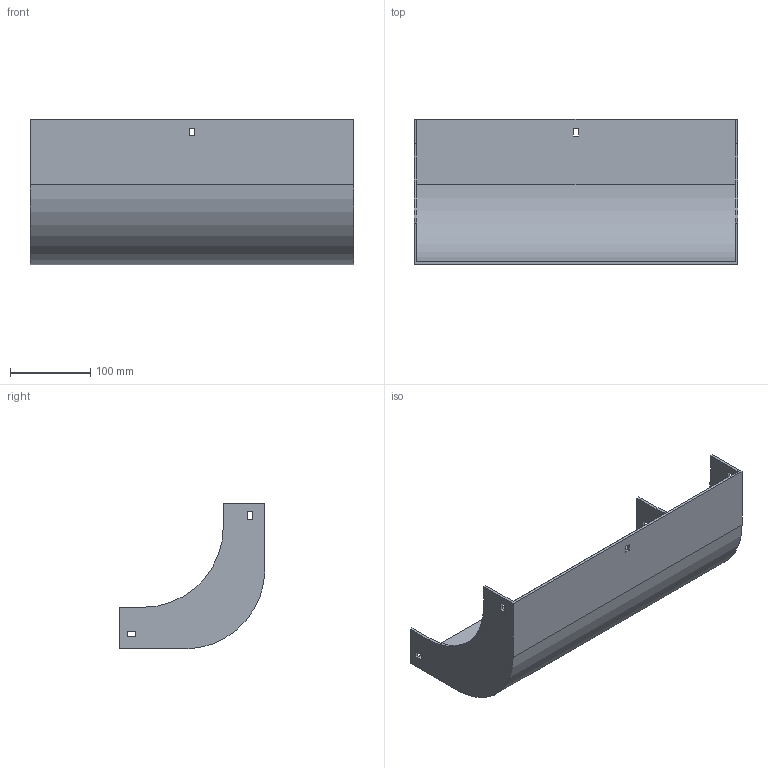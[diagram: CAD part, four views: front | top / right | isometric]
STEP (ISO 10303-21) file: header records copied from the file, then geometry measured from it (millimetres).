
FILE_DESCRIPTION (( 'STEP AP214' ), '1' );
FILE_NAME ('30F1B400.step', '2025-02-21T13:01:47', ( '' ), ( '' ), 'SwSTEP 2.0', 'SolidWorks 2023', '' );
FILE_SCHEMA (( 'AUTOMOTIVE_DESIGN' ));
Length unit declared in the file: millimetre
Products named in the file (1): 30F1B400
Bounding box: 404 x 182 x 182 mm (x, y, z)
Volume: 554499.1 mm3; surface area: 322595.4 mm2
Topology: 1 solids, 1 shells, 42 faces, 120 edges, 80 vertices
Faces by surface type: plane 38, cylinder 4
Entity records: 1399 total; most frequent: CARTESIAN_POINT 243, ORIENTED_EDGE 240, DIRECTION 214, EDGE_CURVE 120, VECTOR 112, LINE 112, VERTEX_POINT 80, EDGE_LOOP 54
